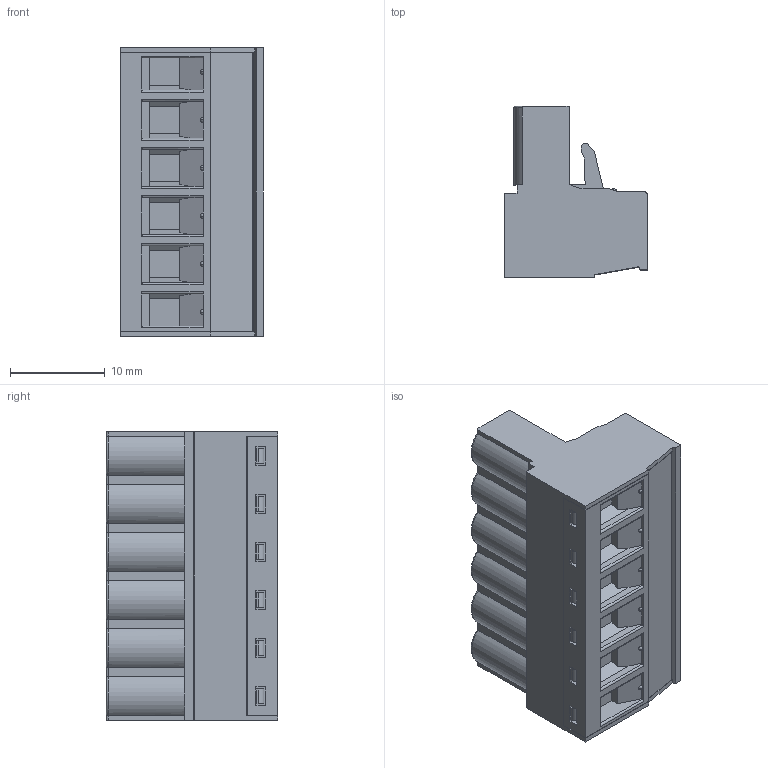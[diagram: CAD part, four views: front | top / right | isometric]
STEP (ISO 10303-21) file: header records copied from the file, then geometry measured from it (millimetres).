
FILE_DESCRIPTION (( 'STEP AP203' ), '1' );
FILE_NAME ('BR8F1-06.STEP', '2020-03-04T01:14:27', ( '' ), ( '' ), 'SwSTEP 2.0', 'SolidWorks 2019', '' );
FILE_SCHEMA (( 'CONFIG_CONTROL_DESIGN' ));
Length unit declared in the file: millimetre
Products named in the file (1): BR8F1-06
Bounding box: 15.05 x 18.1 x 30.48 mm (x, y, z)
Volume: 4866.5 mm3; surface area: 4248.9 mm2
Topology: 1 solids, 1 shells, 811 faces, 2165 edges, 1392 vertices
Faces by surface type: plane 509, cylinder 194, cone 48, torus 36, sphere 24
Entity records: 25657 total; most frequent: CARTESIAN_POINT 5146, ORIENTED_EDGE 4330, DIRECTION 4147, EDGE_CURVE 2165, LINE 1587, VECTOR 1587, VERTEX_POINT 1392, AXIS2_PLACEMENT_3D 1280
